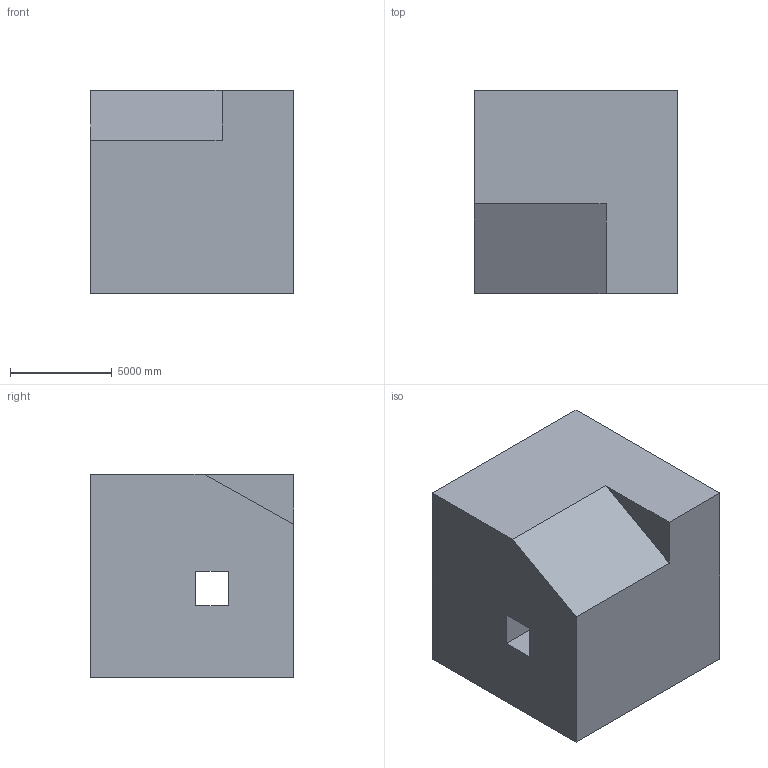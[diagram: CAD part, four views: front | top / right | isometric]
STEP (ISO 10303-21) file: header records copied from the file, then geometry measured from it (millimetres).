
FILE_DESCRIPTION (( 'STEP AP203' ), '1' );
FILE_NAME ('1117.STEP', '2022-08-18T12:49:42', ( 'user' ), ( '' ), 'SwSTEP 2.0', 'SolidWorks 2021', '' );
FILE_SCHEMA (( 'CONFIG_CONTROL_DESIGN' ));
Length unit declared in the file: centimetre
Products named in the file (1): 1117
Bounding box: 10000 x 10000 x 10000 mm (x, y, z)
Volume: 937426525463.1 mm3; surface area: 649085566 mm2
Topology: 1 solids, 1 shells, 12 faces, 30 edges, 20 vertices
Faces by surface type: plane 12
Entity records: 435 total; most frequent: CARTESIAN_POINT 63, ORIENTED_EDGE 60, DIRECTION 56, EDGE_CURVE 30, VECTOR 30, LINE 30, VERTEX_POINT 20, EDGE_LOOP 14
